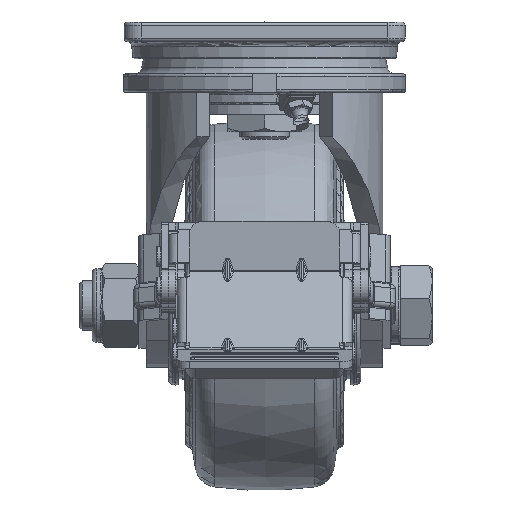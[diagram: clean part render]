
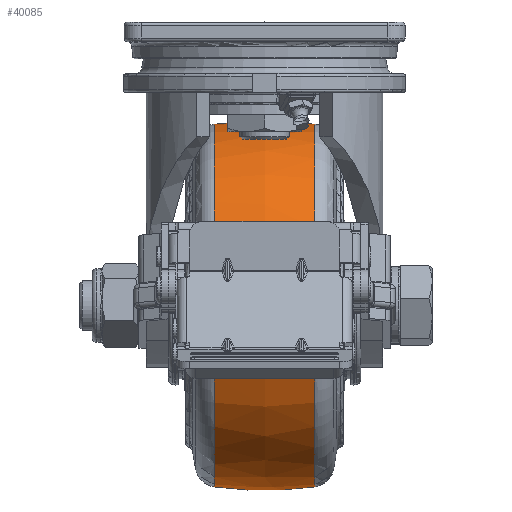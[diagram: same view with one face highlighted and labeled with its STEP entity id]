
A CAD part, left-side view. The second image highlights one B-rep face of the part: STEP entity #40085.
In plain terms, the highlighted free-form (B-spline) face has degree [2, 2] with [3, 9] control points.
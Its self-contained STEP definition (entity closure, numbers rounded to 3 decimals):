
#248=(
BOUNDED_SURFACE()
B_SPLINE_SURFACE(2,2,((#57376,#57377,#57378,#57379,#57380,#57381,#57382,
#57383,#57384),(#57385,#57386,#57387,#57388,#57389,#57390,#57391,#57392,
#57393),(#57394,#57395,#57396,#57397,#57398,#57399,#57400,#57401,#57402)),
 .UNSPECIFIED.,.F.,.T.,.F.)
B_SPLINE_SURFACE_WITH_KNOTS((3,3),(3,2,2,2,3),(-0.136,0.136),
(-3.142,-1.571,0.,1.571,3.142),
 .UNSPECIFIED.)
GEOMETRIC_REPRESENTATION_ITEM()
RATIONAL_B_SPLINE_SURFACE(((1.,0.707,1.,0.707,1.,
0.707,1.,0.707,1.),(0.991,0.701,
0.991,0.701,0.991,0.701,
0.991,0.701,0.991),(1.,0.707,
1.,0.707,1.,0.707,1.,0.707,1.)))
REPRESENTATION_ITEM('')
SURFACE()
);
#9740=FACE_OUTER_BOUND('',#12210,.T.);
#12210=EDGE_LOOP('',(#27617,#27618,#27619,#27620,#27621,#27622,#27623,#27624));
#14930=CIRCLE('',#42775,73.606);
#14931=CIRCLE('',#42776,73.606);
#14932=CIRCLE('',#42777,73.606);
#14933=CIRCLE('',#42778,150.);
#14934=CIRCLE('',#42779,73.606);
#14935=CIRCLE('',#42780,73.606);
#14936=CIRCLE('',#42781,73.606);
#16918=VERTEX_POINT('',#57369);
#16919=VERTEX_POINT('',#57371);
#16920=VERTEX_POINT('',#57373);
#16921=VERTEX_POINT('',#57403);
#16922=VERTEX_POINT('',#57405);
#16923=VERTEX_POINT('',#57407);
#21010=EDGE_CURVE('',#16918,#16919,#14930,.T.);
#21011=EDGE_CURVE('',#16919,#16920,#14931,.T.);
#21012=EDGE_CURVE('',#16920,#16918,#14932,.T.);
#21013=EDGE_CURVE('',#16919,#16921,#14933,.T.);
#21014=EDGE_CURVE('',#16921,#16922,#14934,.T.);
#21015=EDGE_CURVE('',#16922,#16923,#14935,.T.);
#21016=EDGE_CURVE('',#16923,#16921,#14936,.T.);
#27617=ORIENTED_EDGE('',*,*,#21012,.F.);
#27618=ORIENTED_EDGE('',*,*,#21011,.F.);
#27619=ORIENTED_EDGE('',*,*,#21013,.T.);
#27620=ORIENTED_EDGE('',*,*,#21014,.T.);
#27621=ORIENTED_EDGE('',*,*,#21015,.T.);
#27622=ORIENTED_EDGE('',*,*,#21016,.T.);
#27623=ORIENTED_EDGE('',*,*,#21013,.F.);
#27624=ORIENTED_EDGE('',*,*,#21010,.F.);
#40085=ADVANCED_FACE('',(#9740),#248,.F.);
#42775=AXIS2_PLACEMENT_3D('',#57372,#46892,#46893);
#42776=AXIS2_PLACEMENT_3D('',#57374,#46894,#46895);
#42777=AXIS2_PLACEMENT_3D('',#57375,#46896,#46897);
#42778=AXIS2_PLACEMENT_3D('',#57404,#46898,#46899);
#42779=AXIS2_PLACEMENT_3D('',#57406,#46900,#46901);
#42780=AXIS2_PLACEMENT_3D('',#57408,#46902,#46903);
#42781=AXIS2_PLACEMENT_3D('',#57409,#46904,#46905);
#46892=DIRECTION('center_axis',(0.,-1.,0.));
#46893=DIRECTION('ref_axis',(0.978,0.,-0.208));
#46894=DIRECTION('center_axis',(0.,-1.,0.));
#46895=DIRECTION('ref_axis',(0.978,0.,-0.208));
#46896=DIRECTION('center_axis',(0.,-1.,0.));
#46897=DIRECTION('ref_axis',(0.978,0.,-0.208));
#46898=DIRECTION('center_axis',(1.,0.,0.));
#46899=DIRECTION('ref_axis',(0.,0.,
-1.));
#46900=DIRECTION('center_axis',(0.,-1.,0.));
#46901=DIRECTION('ref_axis',(0.978,0.,-0.208));
#46902=DIRECTION('center_axis',(0.,-1.,0.));
#46903=DIRECTION('ref_axis',(0.978,0.,-0.208));
#46904=DIRECTION('center_axis',(0.,-1.,0.));
#46905=DIRECTION('ref_axis',(0.978,0.,-0.208));
#57369=CARTESIAN_POINT('',(67.329,-20.406,-13.008));
#57371=CARTESIAN_POINT('',(52.,-20.406,-158.606));
#57372=CARTESIAN_POINT('Origin',(52.,-20.406,-85.));
#57373=CARTESIAN_POINT('',(123.992,-20.406,-100.329));
#57374=CARTESIAN_POINT('Origin',(52.,-20.406,-85.));
#57375=CARTESIAN_POINT('Origin',(52.,-20.406,-85.));
#57376=CARTESIAN_POINT('Ctrl Pts',(52.,-20.406,-158.606));
#57377=CARTESIAN_POINT('Ctrl Pts',(-21.606,-20.406,
-158.606));
#57378=CARTESIAN_POINT('Ctrl Pts',(-21.606,-20.406,-85.));
#57379=CARTESIAN_POINT('Ctrl Pts',(-21.606,-20.406,
-11.394));
#57380=CARTESIAN_POINT('Ctrl Pts',(52.,-20.406,-11.394));
#57381=CARTESIAN_POINT('Ctrl Pts',(125.606,-20.406,-11.394));
#57382=CARTESIAN_POINT('Ctrl Pts',(125.606,-20.406,-85.));
#57383=CARTESIAN_POINT('Ctrl Pts',(125.606,-20.406,-158.606));
#57384=CARTESIAN_POINT('Ctrl Pts',(52.,-20.406,-158.606));
#57385=CARTESIAN_POINT('Ctrl Pts',(52.,0.,
-161.408));
#57386=CARTESIAN_POINT('Ctrl Pts',(-24.408,0.,
-161.408));
#57387=CARTESIAN_POINT('Ctrl Pts',(-24.408,0.,
-85.));
#57388=CARTESIAN_POINT('Ctrl Pts',(-24.408,0.,
-8.592));
#57389=CARTESIAN_POINT('Ctrl Pts',(52.,0.,
-8.592));
#57390=CARTESIAN_POINT('Ctrl Pts',(128.408,0.,
-8.592));
#57391=CARTESIAN_POINT('Ctrl Pts',(128.408,0.,
-85.));
#57392=CARTESIAN_POINT('Ctrl Pts',(128.408,0.,
-161.408));
#57393=CARTESIAN_POINT('Ctrl Pts',(52.,0.,
-161.408));
#57394=CARTESIAN_POINT('Ctrl Pts',(52.,20.406,-158.606));
#57395=CARTESIAN_POINT('Ctrl Pts',(-21.606,20.406,-158.606));
#57396=CARTESIAN_POINT('Ctrl Pts',(-21.606,20.406,-85.));
#57397=CARTESIAN_POINT('Ctrl Pts',(-21.606,20.406,-11.394));
#57398=CARTESIAN_POINT('Ctrl Pts',(52.,20.406,-11.394));
#57399=CARTESIAN_POINT('Ctrl Pts',(125.606,20.406,-11.394));
#57400=CARTESIAN_POINT('Ctrl Pts',(125.606,20.406,-85.));
#57401=CARTESIAN_POINT('Ctrl Pts',(125.606,20.406,-158.606));
#57402=CARTESIAN_POINT('Ctrl Pts',(52.,20.406,-158.606));
#57403=CARTESIAN_POINT('',(52.,20.406,-158.606));
#57404=CARTESIAN_POINT('Origin',(52.,0.,
-10.));
#57405=CARTESIAN_POINT('',(123.992,20.406,-100.329));
#57406=CARTESIAN_POINT('Origin',(52.,20.406,-85.));
#57407=CARTESIAN_POINT('',(67.329,20.406,-13.008));
#57408=CARTESIAN_POINT('Origin',(52.,20.406,-85.));
#57409=CARTESIAN_POINT('Origin',(52.,20.406,-85.));
